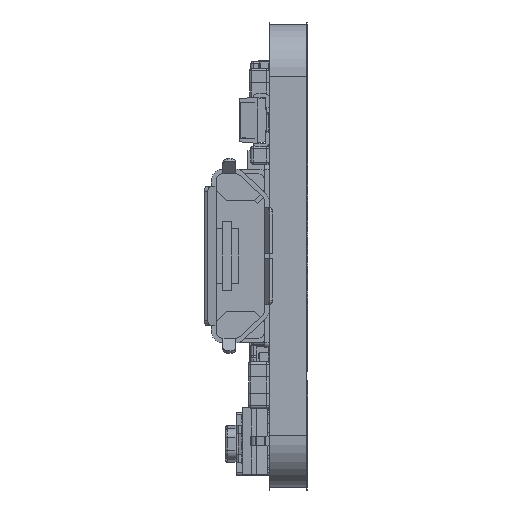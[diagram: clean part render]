
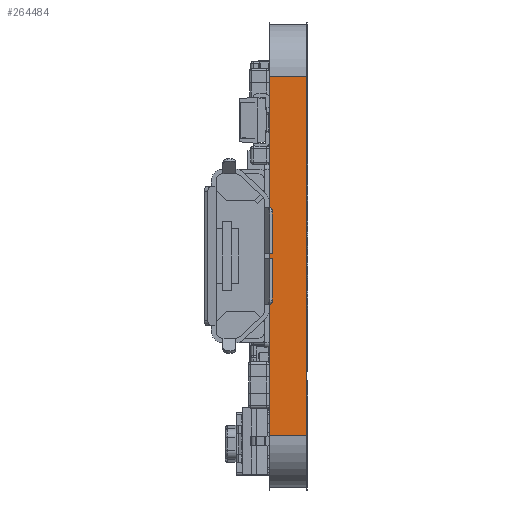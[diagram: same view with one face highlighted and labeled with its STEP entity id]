
A CAD part, left-side view. The second image highlights one B-rep face of the part: STEP entity #264484.
In plain terms, the highlighted planar face has unit normal (-1, 0, 0).
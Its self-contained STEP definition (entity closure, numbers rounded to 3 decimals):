
#12062 = ORIENTED_EDGE ( 'NONE', *, *, #16822, .F. ) ;
#12066 = ORIENTED_EDGE ( 'NONE', *, *, #16824, .F. ) ;
#12068 = ORIENTED_EDGE ( 'NONE', *, *, #16826, .T. ) ;
#12070 = ORIENTED_EDGE ( 'NONE', *, *, #15910, .T. ) ;
#12073 = ORIENTED_EDGE ( 'NONE', *, *, #16830, .T. ) ;
#12075 = ORIENTED_EDGE ( 'NONE', *, *, #16815, .T. ) ;
#12079 = ORIENTED_EDGE ( 'NONE', *, *, #16834, .T. ) ;
#12082 = ORIENTED_EDGE ( 'NONE', *, *, #15831, .F. ) ;
#12084 = ORIENTED_EDGE ( 'NONE', *, *, #16839, .F. ) ;
#12087 = ORIENTED_EDGE ( 'NONE', *, *, #15819, .F. ) ;
#15819 = EDGE_CURVE ( 'NONE', #175027, #175029, #36410, .T. ) ;
#15831 = EDGE_CURVE ( 'NONE', #175034, #175036, #36440, .T. ) ;
#15910 = EDGE_CURVE ( 'NONE', #175065, #175063, #36663, .T. ) ;
#16815 = EDGE_CURVE ( 'NONE', #54504, #54500, #47588, .T. ) ;
#16822 = EDGE_CURVE ( 'NONE', #54508, #175027, #47600, .T. ) ;
#16824 = EDGE_CURVE ( 'NONE', #54510, #54508, #47605, .T. ) ;
#16826 = EDGE_CURVE ( 'NONE', #54510, #175065, #47609, .T. ) ;
#16830 = EDGE_CURVE ( 'NONE', #175063, #54504, #47614, .T. ) ;
#16834 = EDGE_CURVE ( 'NONE', #54500, #175036, #47617, .T. ) ;
#16839 = EDGE_CURVE ( 'NONE', #175029, #175034, #47620, .T. ) ;
#20977 = CARTESIAN_POINT ( 'NONE',  ( 100., 0., -102.25 ) ) ;
#20980 = DIRECTION ( 'NONE',  ( 0., 0., 1. ) ) ;
#21011 = CARTESIAN_POINT ( 'NONE',  ( 100., 0., -102.25 ) ) ;
#21014 = DIRECTION ( 'NONE',  ( 0., 0., 1. ) ) ;
#21260 = CARTESIAN_POINT ( 'NONE',  ( 100., -1.6, -102.25 ) ) ;
#21262 = DIRECTION ( 'NONE',  ( 0., 0., 1. ) ) ;
#36410 = LINE ( 'NONE', #20977, #36419 ) ;
#36419 = VECTOR ( 'NONE', #20980, 1000. ) ;
#36440 = LINE ( 'NONE', #21011, #36449 ) ;
#36449 = VECTOR ( 'NONE', #21014, 1000. ) ;
#36663 = LINE ( 'NONE', #21260, #36670 ) ;
#36670 = VECTOR ( 'NONE', #21262, 1000. ) ;
#42814 = CARTESIAN_POINT ( 'NONE',  ( 100., 0., -117.071 ) ) ;
#42816 = CARTESIAN_POINT ( 'NONE',  ( 100., 0., -113.862 ) ) ;
#42821 = CARTESIAN_POINT ( 'NONE',  ( 100., 0., -106.163 ) ) ;
#42824 = CARTESIAN_POINT ( 'NONE',  ( 100., 0., -102.929 ) ) ;
#42849 = CARTESIAN_POINT ( 'NONE',  ( 100., -1.6, -102.929 ) ) ;
#42851 = CARTESIAN_POINT ( 'NONE',  ( 100., -1.6, -117.071 ) ) ;
#44490 = CARTESIAN_POINT ( 'NONE',  ( 100., -1.6, -102.25 ) ) ;
#44492 = DIRECTION ( 'NONE',  ( 0., 1., 0. ) ) ;
#44512 = CARTESIAN_POINT ( 'NONE',  ( 100., 0., -102.25 ) ) ;
#44513 = DIRECTION ( 'NONE',  ( 0., 0., 1. ) ) ;
#44516 = CARTESIAN_POINT ( 'NONE',  ( 100., -1.6, -117.75 ) ) ;
#44519 = DIRECTION ( 'NONE',  ( 0., 1., 0. ) ) ;
#44523 = CARTESIAN_POINT ( 'NONE',  ( 100., -1.6, -102.25 ) ) ;
#44525 = DIRECTION ( 'NONE',  ( 0., 0., 1. ) ) ;
#44529 = CARTESIAN_POINT ( 'NONE',  ( 100., -1.6, -102.25 ) ) ;
#44532 = DIRECTION ( 'NONE',  ( 0., 0., 1. ) ) ;
#44536 = CARTESIAN_POINT ( 'NONE',  ( 100., 0., -102.25 ) ) ;
#44538 = DIRECTION ( 'NONE',  ( 0., 0., -1. ) ) ;
#44541 = CARTESIAN_POINT ( 'NONE',  ( 100., 0., -102.25 ) ) ;
#44543 = DIRECTION ( 'NONE',  ( 0., 0., 1. ) ) ;
#47588 = LINE ( 'NONE', #44490, #47592 ) ;
#47592 = VECTOR ( 'NONE', #44492, 1000. ) ;
#47600 = LINE ( 'NONE', #44512, #47603 ) ;
#47603 = VECTOR ( 'NONE', #44513, 1000. ) ;
#47605 = LINE ( 'NONE', #44516, #47607 ) ;
#47607 = VECTOR ( 'NONE', #44519, 1000. ) ;
#47609 = LINE ( 'NONE', #44523, #47611 ) ;
#47611 = VECTOR ( 'NONE', #44525, 1000. ) ;
#47614 = LINE ( 'NONE', #44529, #47616 ) ;
#47616 = VECTOR ( 'NONE', #44532, 1000. ) ;
#47617 = LINE ( 'NONE', #44536, #47618 ) ;
#47618 = VECTOR ( 'NONE', #44538, 1000. ) ;
#47620 = LINE ( 'NONE', #44541, #47623 ) ;
#47623 = VECTOR ( 'NONE', #44543, 1000. ) ;
#54500 = VERTEX_POINT ( 'NONE', #116563 ) ;
#54504 = VERTEX_POINT ( 'NONE', #116565 ) ;
#54508 = VERTEX_POINT ( 'NONE', #116567 ) ;
#54510 = VERTEX_POINT ( 'NONE', #116568 ) ;
#88016 = EDGE_LOOP ( 'NONE', ( #12062, #12066, #12068, #12070, #12073, #12075, #12079, #12082, #12084, #12087 ) ) ;
#116563 = CARTESIAN_POINT ( 'NONE',  ( 100., 0., -102.25 ) ) ;
#116565 = CARTESIAN_POINT ( 'NONE',  ( 100., -1.6, -102.25 ) ) ;
#116567 = CARTESIAN_POINT ( 'NONE',  ( 100., 0., -117.75 ) ) ;
#116568 = CARTESIAN_POINT ( 'NONE',  ( 100., -1.6, -117.75 ) ) ;
#150228 = AXIS2_PLACEMENT_3D ( 'NONE', #185390, #185393, #185396 ) ;
#175027 = VERTEX_POINT ( 'NONE', #42814 ) ;
#175029 = VERTEX_POINT ( 'NONE', #42816 ) ;
#175034 = VERTEX_POINT ( 'NONE', #42821 ) ;
#175036 = VERTEX_POINT ( 'NONE', #42824 ) ;
#175063 = VERTEX_POINT ( 'NONE', #42849 ) ;
#175065 = VERTEX_POINT ( 'NONE', #42851 ) ;
#181416 = FACE_OUTER_BOUND ( 'NONE', #88016, .T. ) ;
#185387 = PLANE ( 'NONE',  #150228 ) ;
#185390 = CARTESIAN_POINT ( 'NONE',  ( 100., -1.6, -102.25 ) ) ;
#185393 = DIRECTION ( 'NONE',  ( -1., 0., 0. ) ) ;
#185396 = DIRECTION ( 'NONE',  ( 0., 0., 1. ) ) ;
#264484 = ADVANCED_FACE ( 'NONE', ( #181416 ), #185387, .T. ) ;
